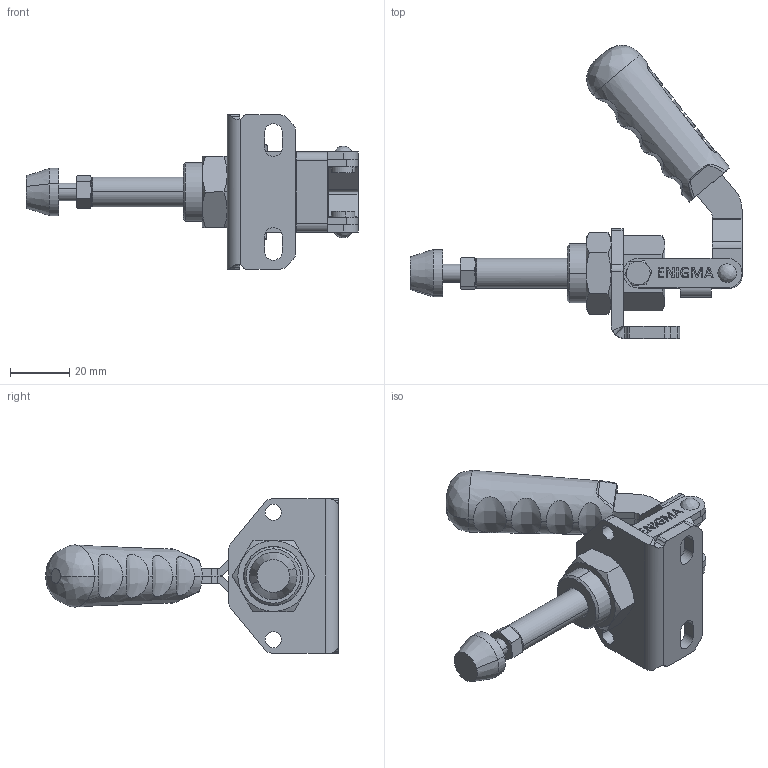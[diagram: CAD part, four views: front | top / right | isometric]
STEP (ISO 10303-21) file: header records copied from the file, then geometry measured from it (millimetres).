
FILE_DESCRIPTION (( 'STEP AP203' ), '1' );
FILE_NAME ('16010_Y.STEP', '2022-11-26T19:04:33', ( '' ), ( '' ), 'SwSTEP 2.0', 'SolidWorks 2023', '' );
FILE_SCHEMA (( 'CONFIG_CONTROL_DESIGN' ));
Length unit declared in the file: millimetre
Products named in the file (14): M6_SOMUN; 16010_HAREKET_KOLU; 16010_Ø10_Mil; Aynalama16010_HAREKET_KOLU; M6_BASKI_PABUCU; 5x7_5_DOLU_PERÇİN; 16010_MAFSAL; C55_Yeni_Tutamak; 16010_Y_TABAN; M20x1_5x8_Kontra_Somun; 5x22_PERÇİN; 16010_Y; M4x5x10_Kademeli_Civata; 16010_AltıgenGövde
Assembly tree (15 placements, depth 2):
  16010_Y
    16010_Y_TABAN
    16010_HAREKET_KOLU
    16010_MAFSAL
    16010_AltıgenGövde
    16010_Ø10_Mil
    M4x5x10_Kademeli_Civata  x2
    C55_Yeni_Tutamak
    M6_BASKI_PABUCU
    M6_SOMUN
    Aynalama16010_HAREKET_KOLU
    5x7_5_DOLU_PERÇİN  x2
    5x22_PERÇİN
    M20x1_5x8_Kontra_Somun
Bounding box: 112 x 98.86 x 52 mm (x, y, z)
Volume: 50488.4 mm3; surface area: 32265 mm2
Topology: 15 solids, 15 shells, 628 faces, 1598 edges, 1027 vertices
Faces by surface type: plane 313, cylinder 157, bspline 82, cone 76
Entity records: 27838 total; most frequent: CARTESIAN_POINT 12166, ORIENTED_EDGE 3060, DIRECTION 2719, EDGE_CURVE 1530, VERTEX_POINT 986, VECTOR 917, LINE 917, AXIS2_PLACEMENT_3D 901
